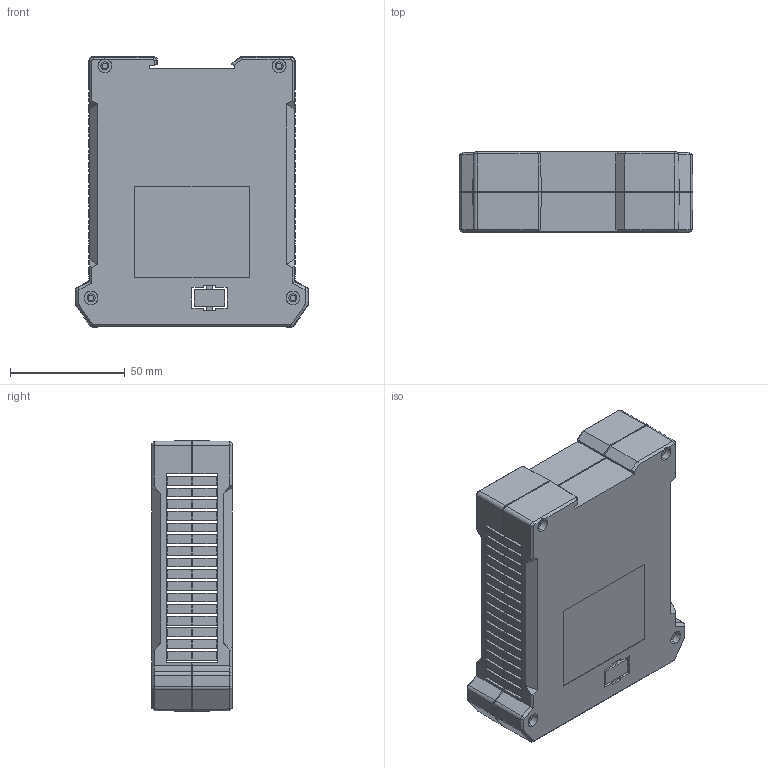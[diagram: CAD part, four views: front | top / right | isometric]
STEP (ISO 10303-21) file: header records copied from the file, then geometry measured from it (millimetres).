
FILE_DESCRIPTION (( 'STEP AP203' ), '1' );
FILE_NAME ('PT152-A.STEP', '2021-03-26T06:14:11', ( '' ), ( '' ), 'SwSTEP 2.0', 'SolidWorks 2021', '' );
FILE_SCHEMA (( 'CONFIG_CONTROL_DESIGN' ));
Length unit declared in the file: millimetre
Products named in the file (1): PT152-A
Bounding box: 102 x 35 x 118 mm (x, y, z)
Volume: 67518.8 mm3; surface area: 79625.7 mm2
Topology: 2 solids, 2 shells, 1415 faces, 4114 edges, 2728 vertices
Faces by surface type: plane 1136, cylinder 200, cone 70, bspline 9
Entity records: 46858 total; most frequent: CARTESIAN_POINT 9470, ORIENTED_EDGE 8228, DIRECTION 7095, EDGE_CURVE 4114, VECTOR 3509, LINE 3509, VERTEX_POINT 2728, AXIS2_PLACEMENT_3D 1793
